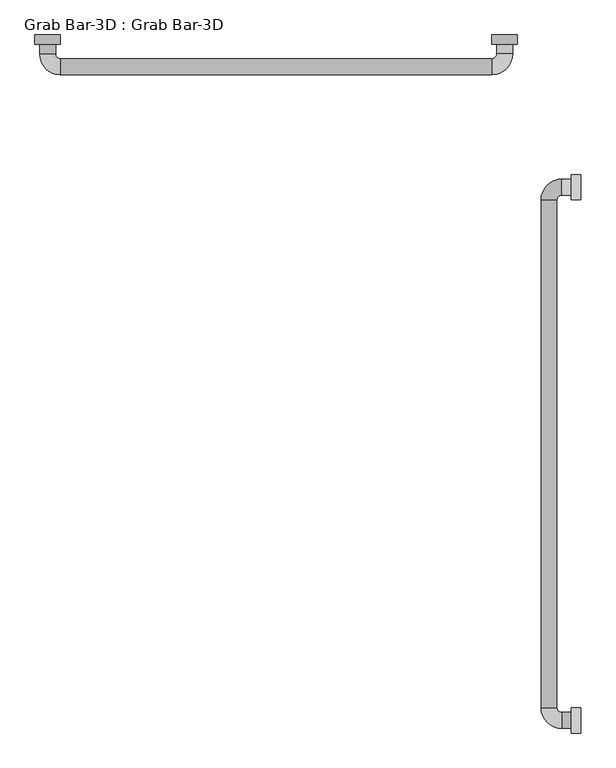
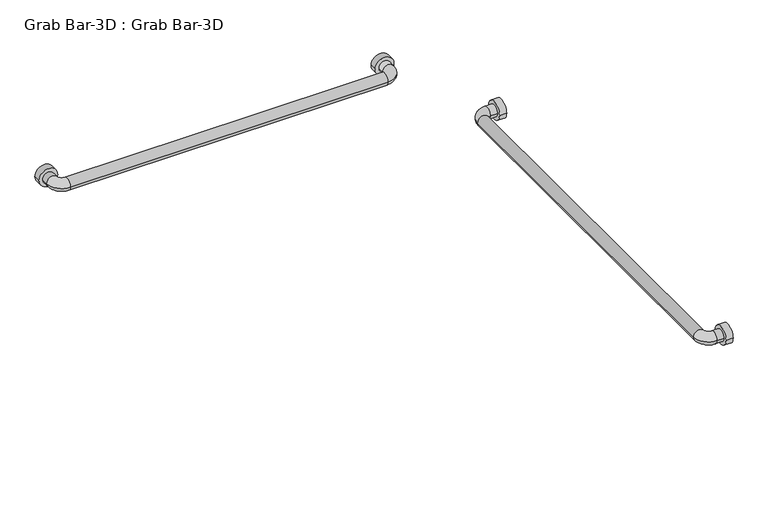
"""IFC4 building model written with IfcOpenShell, lengths in millimetres: proxy geometry, Grab Bar-3D : Grab Bar-3D."""

from ifc_helpers import new_model, si_unit, point, frame, frame_2d, origin, place, context, project, spatial, circle_curve, ellipse_curve, trimmed, segment, composite_curve, outline, extrude, source, transform, mapped, element, save
from ifc_brep_helpers import plane_surface, cylinder_surface, revolved_surface, advanced_brep


def grab_bar_3d_grab_bar_3d_a3ed3e83(model_context):
    return source(origin(), model_context, "Body", "SolidModel", [
        extrude(outline(composite_curve([segment(trimmed(circle_curve(frame_2d((-304.8, 914.4)), 25.4), [point((-279.4, 914.4))], [point((-330.2, 914.4))], False, "CARTESIAN"), True, "CONTINUOUS"), segment(trimmed(circle_curve(frame_2d((-304.8, 914.4)), 25.4), [point((-330.2, 914.4))], [point((-279.4, 914.4))], False, "CARTESIAN"), True, "CONTINUOUS")], self_intersect=False)), frame((-19.05, 0.0, 0.0), z_axis=(1.0, 0.0, 0.0), x_axis=(0.0, 1.0, 0.0)), (0.0, 0.0, 1.0), 19.05),
        extrude(outline(composite_curve([segment(trimmed(circle_curve(frame_2d((-1371.6, 914.4)), 25.4), [point((-1346.2, 914.4))], [point((-1397.0, 914.4))], False, "CARTESIAN"), True, "CONTINUOUS"), segment(trimmed(circle_curve(frame_2d((-1371.6, 914.4)), 25.4), [point((-1397.0, 914.4))], [point((-1346.2, 914.4))], False, "CARTESIAN"), True, "CONTINUOUS")], self_intersect=False)), frame((-19.05, 0.0, 0.0), z_axis=(1.0, 0.0, 0.0), x_axis=(0.0, 1.0, 0.0)), (0.0, 0.0, 1.0), 19.05),
        extrude(outline(composite_curve([segment(trimmed(circle_curve(frame_2d((914.4, -152.4)), 25.4), [point((914.4, -177.8))], [point((914.4, -127.0))], False, "CARTESIAN"), True, "CONTINUOUS"), segment(trimmed(circle_curve(frame_2d((914.4, -152.4)), 25.4), [point((914.4, -127.0))], [point((914.4, -177.8))], False, "CARTESIAN"), True, "CONTINUOUS")], self_intersect=False)), frame((0.0, -19.05, 0.0), z_axis=(0.0, 1.0, 0.0), x_axis=(0.0, 0.0, 1.0)), (0.0, 0.0, 1.0), 19.05),
        extrude(outline(composite_curve([segment(trimmed(circle_curve(frame_2d((914.4, -1066.8)), 25.4), [point((914.4, -1092.2))], [point((914.4, -1041.4))], False, "CARTESIAN"), True, "CONTINUOUS"), segment(trimmed(circle_curve(frame_2d((914.4, -1066.8)), 25.4), [point((914.4, -1041.4))], [point((914.4, -1092.2))], False, "CARTESIAN"), True, "CONTINUOUS")], self_intersect=False)), frame((0.0, -19.05, 0.0), z_axis=(0.0, 1.0, 0.0), x_axis=(0.0, 0.0, 1.0)), (0.0, 0.0, 1.0), 19.05),
        advanced_brep(
        [(-19.05, -320.675, 914.4), (-19.05, -288.925, 914.4), (-38.1, -288.925, 914.4), (-38.1, -320.675, 914.4), (-79.375, -330.2, 914.4), (-47.625, -330.2, 914.4), (-79.375, -1346.2, 914.4), (-47.625, -1346.2, 914.4), (-38.1, -1387.475, 914.4), (-38.1, -1355.725, 914.4), (-19.05, -1355.725, 914.4), (-19.05, -1387.475, 914.4)],
        [
            (0, 1, circle_curve(frame((-19.05, -304.8, 914.4), z_axis=(1.0, 0.0, 0.0), x_axis=(0.0, 1.0, 0.0)), 15.875)),
            (1, 0, circle_curve(frame((-19.05, -304.8, 914.4), z_axis=(1.0, 0.0, 0.0), x_axis=(0.0, 1.0, 0.0)), 15.875)),
            (1, 2),
            (2, 3, circle_curve(frame((-38.1, -304.8, 914.4), z_axis=(1.0, 0.0, 0.0), x_axis=(0.0, 1.0, 0.0)), 15.875)),
            (3, 0),
            (3, 2, circle_curve(frame((-38.1, -304.8, 914.4), z_axis=(1.0, 0.0, 0.0), x_axis=(0.0, 1.0, 0.0)), 15.875)),
            (4, 5, circle_curve(frame((-63.5, -330.2, 914.4), z_axis=(0.0, 1.0, 0.0), x_axis=(-1.0, 0.0, 0.0)), 15.875)),
            (5, 3, circle_curve(frame((-38.1, -330.2, 914.4), z_axis=(0.0, 0.0, -1.0), x_axis=(0.0, 1.0, 0.0)), 9.525)),
            (2, 4, circle_curve(frame((-38.1, -330.2, 914.4), z_axis=(0.0, 0.0, 1.0), x_axis=(0.0, 1.0, 0.0)), 41.275)),
            (5, 4, circle_curve(frame((-63.5, -330.2, 914.4), z_axis=(0.0, 1.0, 0.0), x_axis=(-1.0, 0.0, 0.0)), 15.875)),
            (4, 6),
            (6, 7, circle_curve(frame((-63.5, -1346.2, 914.4), z_axis=(0.0, 1.0, 0.0), x_axis=(-1.0, 0.0, 0.0)), 15.875)),
            (7, 5),
            (7, 6, circle_curve(frame((-63.5, -1346.2, 914.4), z_axis=(0.0, 1.0, 0.0), x_axis=(-1.0, 0.0, 0.0)), 15.875)),
            (8, 9, circle_curve(frame((-38.1, -1371.6, 914.4), z_axis=(-1.0, 0.0, 0.0), x_axis=(0.0, -1.0, 0.0)), 15.875)),
            (9, 7, circle_curve(frame((-38.1, -1346.2, 914.4), z_axis=(0.0, 0.0, -1.0), x_axis=(-1.0, 0.0, 0.0)), 9.525)),
            (6, 8, circle_curve(frame((-38.1, -1346.2, 914.4), z_axis=(0.0, 0.0, 1.0), x_axis=(-1.0, 0.0, 0.0)), 41.275)),
            (9, 8, circle_curve(frame((-38.1, -1371.6, 914.4), z_axis=(-1.0, 0.0, 0.0), x_axis=(0.0, -1.0, 0.0)), 15.875)),
            (10, 11, circle_curve(frame((-19.05, -1371.6, 914.4), z_axis=(1.0, 0.0, 0.0), x_axis=(0.0, -1.0, 0.0)), 15.875)),
            (11, 10, circle_curve(frame((-19.05, -1371.6, 914.4), z_axis=(1.0, 0.0, 0.0), x_axis=(0.0, -1.0, 0.0)), 15.875)),
            (8, 11),
            (10, 9),
        ],
        [
            plane_surface(frame((-19.05, -304.8, -930.275), z_axis=(1.0, 0.0, 0.0), x_axis=(0.0, 1.0, 0.0))),
            cylinder_surface(frame((-19.05, -304.8, 914.4), z_axis=(1.0, 0.0, 0.0), x_axis=(0.0, 1.0, 0.0)), 15.875),
            revolved_surface(trimmed(ellipse_curve(frame((-38.1, -304.8, 914.4), z_axis=(-1.0, 0.0, 0.0), x_axis=(0.0, 1.0, 0.0)), 15.875, 15.875), [point((-38.1, -320.675, 914.4))], [point((-38.1, -288.925, 914.4))], True, "CARTESIAN"), (-38.1, -330.2, 0.0), (0.0, 0.0, -1.0)),
            revolved_surface(trimmed(ellipse_curve(frame((-38.1, -304.8, 914.4), z_axis=(-1.0, 0.0, 0.0), x_axis=(0.0, 1.0, 0.0)), 15.875, 15.875), [point((-38.1, -288.925, 914.4))], [point((-38.1, -320.675, 914.4))], True, "CARTESIAN"), (-38.1, -330.2, 0.0), (0.0, 0.0, -1.0)),
            cylinder_surface(frame((-63.5, -330.2, 914.4), z_axis=(0.0, 1.0, 0.0), x_axis=(-1.0, 0.0, 0.0)), 15.875),
            revolved_surface(trimmed(ellipse_curve(frame((-63.5, -1346.2, 914.4), z_axis=(0.0, -1.0, 0.0), x_axis=(-1.0, 0.0, 0.0)), 15.875, 15.875), [point((-47.625, -1346.2, 914.4))], [point((-79.375, -1346.2, 914.4))], True, "CARTESIAN"), (-38.1, -1346.2, 0.0), (0.0, 0.0, -1.0)),
            revolved_surface(trimmed(ellipse_curve(frame((-63.5, -1346.2, 914.4), z_axis=(0.0, -1.0, 0.0), x_axis=(-1.0, 0.0, 0.0)), 15.875, 15.875), [point((-79.375, -1346.2, 914.4))], [point((-47.625, -1346.2, 914.4))], True, "CARTESIAN"), (-38.1, -1346.2, 0.0), (0.0, 0.0, -1.0)),
            plane_surface(frame((-19.05, -1371.6, -930.275), z_axis=(1.0, 0.0, 0.0), x_axis=(0.0, -1.0, 0.0))),
            cylinder_surface(frame((-38.1, -1371.6, 914.4), z_axis=(-1.0, 0.0, 0.0), x_axis=(0.0, -1.0, 0.0)), 15.875),
        ],
        [
            (0, [[1, 2]]),
            (1, [[3, 4, 5, -2]]),
            (1, [[-5, 6, -3, -1]]),
            (2, [[7, 8, -4, 9]]),
            (3, [[10, -9, -6, -8]]),
            (4, [[11, 12, 13, -7]]),
            (4, [[-13, 14, -11, -10]]),
            (5, [[15, 16, -12, 17]]),
            (6, [[18, -17, -14, -16]]),
            (7, [[19, 20]]),
            (8, [[21, -19, 22, -15]]),
            (8, [[-22, -20, -21, -18]]),
        ],
    ),
        advanced_brep(
        [(-1050.925, -19.05, 914.4), (-1082.675, -19.05, 914.4), (-1082.675, -38.1, 914.4), (-1050.925, -38.1, 914.4), (-1041.4, -79.375, 914.4), (-1041.4, -47.625, 914.4), (-177.8, -79.375, 914.4), (-177.8, -47.625, 914.4), (-136.525, -38.1, 914.4), (-168.275, -38.1, 914.4), (-168.275, -19.05, 914.4), (-136.525, -19.05, 914.4)],
        [
            (0, 1, circle_curve(frame((-1066.8, -19.05, 914.4), z_axis=(0.0, 1.0, 0.0), x_axis=(-1.0, 0.0, 0.0)), 15.875)),
            (1, 0, circle_curve(frame((-1066.8, -19.05, 914.4), z_axis=(0.0, 1.0, 0.0), x_axis=(-1.0, 0.0, 0.0)), 15.875)),
            (1, 2),
            (2, 3, circle_curve(frame((-1066.8, -38.1, 914.4), z_axis=(0.0, 1.0, 0.0), x_axis=(-1.0, 0.0, 0.0)), 15.875)),
            (3, 0),
            (3, 2, circle_curve(frame((-1066.8, -38.1, 914.4), z_axis=(0.0, 1.0, 0.0), x_axis=(-1.0, 0.0, 0.0)), 15.875)),
            (4, 5, circle_curve(frame((-1041.4, -63.5, 914.4), z_axis=(-1.0, 0.0, 0.0), x_axis=(0.0, -1.0, 0.0)), 15.875)),
            (5, 3, circle_curve(frame((-1041.4, -38.1, 914.4), z_axis=(0.0, 0.0, -1.0), x_axis=(-1.0, 0.0, 0.0)), 9.525)),
            (2, 4, circle_curve(frame((-1041.4, -38.1, 914.4), z_axis=(0.0, 0.0, 1.0), x_axis=(-1.0, 0.0, 0.0)), 41.275)),
            (5, 4, circle_curve(frame((-1041.4, -63.5, 914.4), z_axis=(-1.0, 0.0, 0.0), x_axis=(0.0, -1.0, 0.0)), 15.875)),
            (4, 6),
            (6, 7, circle_curve(frame((-177.8, -63.5, 914.4), z_axis=(-1.0, 0.0, 0.0), x_axis=(0.0, -1.0, 0.0)), 15.875)),
            (7, 5),
            (7, 6, circle_curve(frame((-177.8, -63.5, 914.4), z_axis=(-1.0, 0.0, 0.0), x_axis=(0.0, -1.0, 0.0)), 15.875)),
            (8, 9, circle_curve(frame((-152.4, -38.1, 914.4), z_axis=(0.0, -1.0, 0.0), x_axis=(1.0, 0.0, 0.0)), 15.875)),
            (9, 7, circle_curve(frame((-177.8, -38.1, 914.4), z_axis=(0.0, 0.0, -1.0), x_axis=(0.0, -1.0, 0.0)), 9.525)),
            (6, 8, circle_curve(frame((-177.8, -38.1, 914.4), z_axis=(0.0, 0.0, 1.0), x_axis=(0.0, -1.0, 0.0)), 41.275)),
            (9, 8, circle_curve(frame((-152.4, -38.1, 914.4), z_axis=(0.0, -1.0, 0.0), x_axis=(1.0, 0.0, 0.0)), 15.875)),
            (10, 11, circle_curve(frame((-152.4, -19.05, 914.4), z_axis=(0.0, 1.0, 0.0), x_axis=(1.0, 0.0, 0.0)), 15.875)),
            (11, 10, circle_curve(frame((-152.4, -19.05, 914.4), z_axis=(0.0, 1.0, 0.0), x_axis=(1.0, 0.0, 0.0)), 15.875)),
            (8, 11),
            (10, 9),
        ],
        [
            plane_surface(frame((-1997.075, -19.05, 0.0), z_axis=(0.0, 1.0, 0.0), x_axis=(0.0, 0.0, 1.0))),
            cylinder_surface(frame((-1066.8, -19.05, 914.4), z_axis=(0.0, 1.0, 0.0), x_axis=(-1.0, 0.0, 0.0)), 15.875),
            revolved_surface(trimmed(ellipse_curve(frame((-1066.8, -38.1, 914.4), z_axis=(0.0, -1.0, 0.0), x_axis=(-1.0, 0.0, 0.0)), 15.875, 15.875), [point((-1050.925, -38.1, 914.4))], [point((-1082.675, -38.1, 914.4))], True, "CARTESIAN"), (-1041.4, -38.1, 0.0), (0.0, 0.0, -1.0)),
            revolved_surface(trimmed(ellipse_curve(frame((-1066.8, -38.1, 914.4), z_axis=(0.0, -1.0, 0.0), x_axis=(-1.0, 0.0, 0.0)), 15.875, 15.875), [point((-1082.675, -38.1, 914.4))], [point((-1050.925, -38.1, 914.4))], True, "CARTESIAN"), (-1041.4, -38.1, 0.0), (0.0, 0.0, -1.0)),
            cylinder_surface(frame((-1041.4, -63.5, 914.4), z_axis=(-1.0, 0.0, 0.0), x_axis=(0.0, -1.0, 0.0)), 15.875),
            revolved_surface(trimmed(ellipse_curve(frame((-177.8, -63.5, 914.4), z_axis=(1.0, 0.0, 0.0), x_axis=(0.0, -1.0, 0.0)), 15.875, 15.875), [point((-177.8, -47.625, 914.4))], [point((-177.8, -79.375, 914.4))], True, "CARTESIAN"), (-177.8, -38.1, 0.0), (0.0, 0.0, -1.0)),
            revolved_surface(trimmed(ellipse_curve(frame((-177.8, -63.5, 914.4), z_axis=(1.0, 0.0, 0.0), x_axis=(0.0, -1.0, 0.0)), 15.875, 15.875), [point((-177.8, -79.375, 914.4))], [point((-177.8, -47.625, 914.4))], True, "CARTESIAN"), (-177.8, -38.1, 0.0), (0.0, 0.0, -1.0)),
            plane_surface(frame((-1082.675, -19.05, 0.0), z_axis=(0.0, 1.0, 0.0), x_axis=(0.0, 0.0, -1.0))),
            cylinder_surface(frame((-152.4, -38.1, 914.4), z_axis=(0.0, -1.0, 0.0), x_axis=(1.0, 0.0, 0.0)), 15.875),
        ],
        [
            (0, [[1, 2]]),
            (1, [[3, 4, 5, -2]]),
            (1, [[-5, 6, -3, -1]]),
            (2, [[7, 8, -4, 9]]),
            (3, [[10, -9, -6, -8]]),
            (4, [[11, 12, 13, -7]]),
            (4, [[-13, 14, -11, -10]]),
            (5, [[15, 16, -12, 17]]),
            (6, [[18, -17, -14, -16]]),
            (7, [[19, 20]]),
            (8, [[21, -19, 22, -15]]),
            (8, [[-22, -20, -21, -18]]),
        ],
    ),
    ])


if __name__ == "__main__":
    model = new_model("IFC4")
    model_context = context("Model", 3, world=origin())
    ifc_project = project(units=[si_unit("LENGTHUNIT", "METRE", prefix="MILLI")], contexts=[model_context])
    site = spatial("IfcSite", under=ifc_project)
    building = spatial("IfcBuilding", under=site)
    placement = place(None, origin())
    grab_bar_3d_grab_bar_3d_shape = grab_bar_3d_grab_bar_3d_a3ed3e83(model_context)
    element("IfcBuildingElementProxy", 1, Name="Grab Bar-3D : Grab Bar-3D", ObjectType="Grab Bar-3D : Grab Bar-3D", at=placement, inside=building, context=model_context, shape_type="MappedRepresentation", body=[
        mapped(grab_bar_3d_grab_bar_3d_shape, transform((0.0, 0.0, 0.0), x_axis=(1.0, 0.0, 0.0), y_axis=(0.0, 1.0, 0.0), z_axis=(0.0, 0.0, 1.0))),
    ])
    save(model, "model.ifc")
